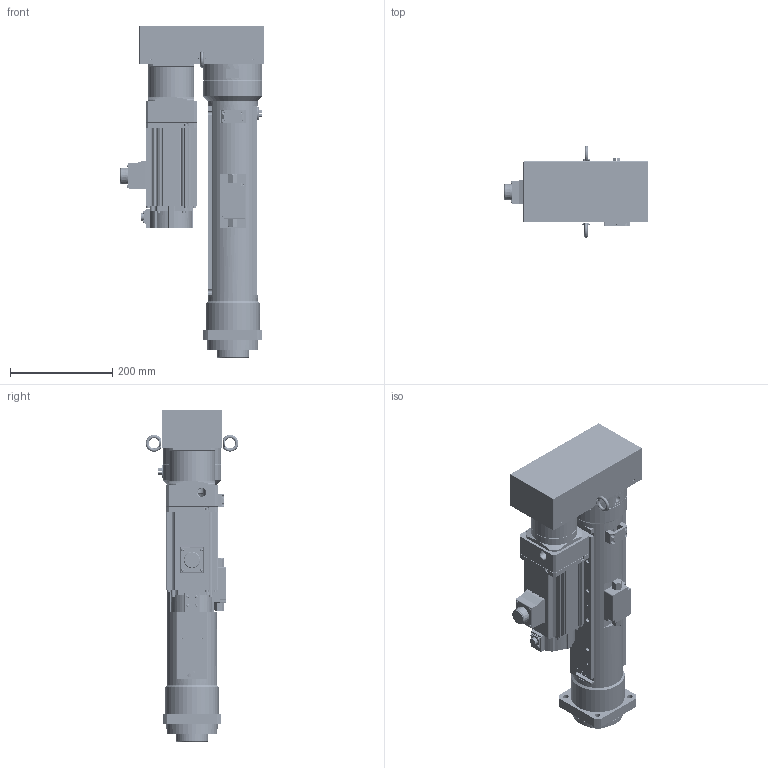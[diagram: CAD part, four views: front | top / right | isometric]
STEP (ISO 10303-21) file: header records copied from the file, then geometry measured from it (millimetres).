
FILE_DESCRIPTION( ('This file contains a STEP AP42 implementation' ,'as created by ZW3D STEP Interface translator.') ,'2;1' );
FILE_NAME( 'OACIS-DC-P015-300-265-A6V200_ASM_20.51.stp' ,'26 415.143219', (''), ('ZWCAD Software Co.'), 'Version 1.0', 'ZW3D to STEP translator', '' );
FILE_SCHEMA(('AUTOMOTIVE_DESIGN { 1 0 10303 214 1 1 1 1 }'));
Length unit declared in the file: millimetre
Products named in the file (1): 0
Bounding box: 283 x 180.9 x 648 mm (x, y, z)
Volume: 7488609.3 mm3; surface area: 1362267.5 mm2
Topology: 49 solids, 63 shells, 3039 faces, 7868 edges, 5141 vertices
Faces by surface type: cylinder 1430, plane 1146, cone 344, torus 93, sphere 16, bspline 10
Full cylindrical faces by diameter (mm): 1.6 x8, 2.459 x5, 2.75 x4, 3.2 x5, 3.242 x10, 3.3 x114, 4 x8, 4.134 x12, 4.2 x4, 4.3 x30, 4.5 x4, 5 x42, 5.5 x4, 6.5 x8, 6.6 x14, 6.647 x5, 6.8 x36, 7 x20, 8 x42, 8.4 x8, 8.5 x25, 9 x4, 11 x12, 12 x1, 14.8 x1, 15 x8, 15.5 x2, 16.5 x2, 18 x5, 18.917 x2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
Entity records: 100935 total; most frequent: CARTESIAN_POINT 19911, DIRECTION 17499, ORIENTED_EDGE 15429, EDGE_CURVE 7736, AXIS2_PLACEMENT_3D 6994, VERTEX_POINT 5066, CIRCLE 3953, EDGE_LOOP 3644
